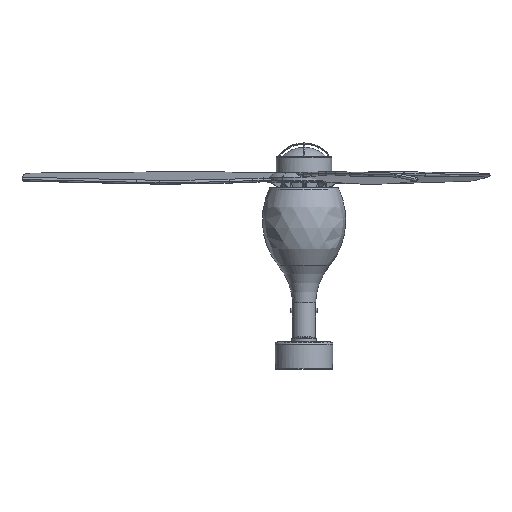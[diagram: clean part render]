
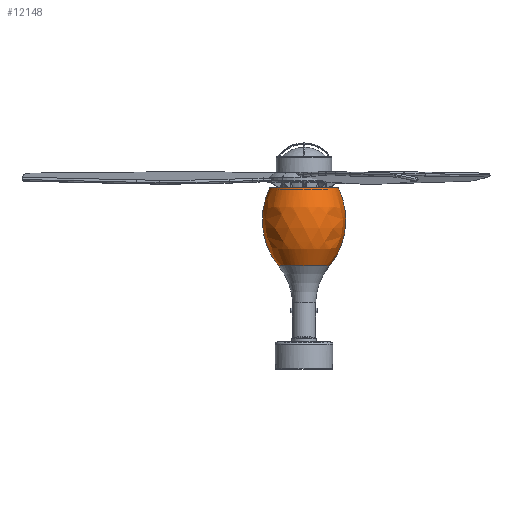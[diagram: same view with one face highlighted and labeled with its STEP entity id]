
A CAD part, left-side view. The second image highlights one B-rep face of the part: STEP entity #12148.
In plain terms, the highlighted free-form (B-spline) face has degree [2, 2] with [3, 5] control points.
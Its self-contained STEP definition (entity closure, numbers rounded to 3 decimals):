
#59=(
BOUNDED_SURFACE()
B_SPLINE_SURFACE(2,2,((#22378,#22379,#22380,#22381,#22382),(#22383,#22384,
#22385,#22386,#22387),(#22388,#22389,#22390,#22391,#22392)),
 .UNSPECIFIED.,.F.,.F.,.F.)
B_SPLINE_SURFACE_WITH_KNOTS((3,3),(3,2,3),(-0.68,0.46),
(-1.571,0.,1.571),.UNSPECIFIED.)
GEOMETRIC_REPRESENTATION_ITEM()
RATIONAL_B_SPLINE_SURFACE(((1.,0.707,1.,0.707,1.),
(0.842,0.595,0.842,0.595,
0.842),(1.,0.707,1.,0.707,1.)))
REPRESENTATION_ITEM('')
SURFACE()
);
#684=CIRCLE('',#13045,164.71);
#686=CIRCLE('',#13047,164.71);
#687=CIRCLE('',#13048,57.784);
#1444=FACE_OUTER_BOUND('',#2236,.T.);
#2236=EDGE_LOOP('',(#9316,#9317,#9318,#9319));
#3074=B_SPLINE_CURVE_WITH_KNOTS('',3,(#22393,#22394,#22395,#22396,#22397,
#22398,#22399,#22400,#22401,#22402,#22403),.UNSPECIFIED.,.F.,.F.,(4,1,1,
1,1,1,1,1,4),(0.,0.125,0.25,0.375,0.5,0.625,0.75,0.875,1.),
 .UNSPECIFIED.);
#5229=VERTEX_POINT('',#22360);
#5230=VERTEX_POINT('',#22361);
#5231=VERTEX_POINT('',#22373);
#5232=VERTEX_POINT('',#22375);
#6691=EDGE_CURVE('',#5231,#5229,#684,.T.);
#6693=EDGE_CURVE('',#5230,#5232,#686,.T.);
#6694=EDGE_CURVE('',#5230,#5229,#3074,.T.);
#6695=EDGE_CURVE('',#5231,#5232,#687,.T.);
#9316=ORIENTED_EDGE('',*,*,#6694,.F.);
#9317=ORIENTED_EDGE('',*,*,#6693,.T.);
#9318=ORIENTED_EDGE('',*,*,#6695,.F.);
#9319=ORIENTED_EDGE('',*,*,#6691,.T.);
#12148=ADVANCED_FACE('',(#1444),#59,.F.);
#13045=AXIS2_PLACEMENT_3D('',#22374,#14826,#14827);
#13047=AXIS2_PLACEMENT_3D('',#22377,#14830,#14831);
#13048=AXIS2_PLACEMENT_3D('',#22404,#14832,#14833);
#14826=DIRECTION('center_axis',(-1.,0.,0.));
#14827=DIRECTION('ref_axis',(0.,-1.,0.));
#14830=DIRECTION('center_axis',(-1.,0.,0.));
#14831=DIRECTION('ref_axis',(0.,1.,0.));
#14832=DIRECTION('center_axis',(0.,0.,-1.));
#14833=DIRECTION('ref_axis',(1.,0.,0.));
#22360=CARTESIAN_POINT('',(0.,-77.225,409.036));
#22361=CARTESIAN_POINT('',(0.,77.225,409.036));
#22373=CARTESIAN_POINT('',(0.,-57.784,232.343));
#22374=CARTESIAN_POINT('Origin',(0.,70.334,
335.855));
#22375=CARTESIAN_POINT('',(0.,57.784,232.343));
#22377=CARTESIAN_POINT('Origin',(0.,-70.334,
335.855));
#22378=CARTESIAN_POINT('Ctrl Pts',(0.,57.784,
232.343));
#22379=CARTESIAN_POINT('Ctrl Pts',(-57.784,57.784,232.343));
#22380=CARTESIAN_POINT('Ctrl Pts',(-57.784,0.,
232.343));
#22381=CARTESIAN_POINT('Ctrl Pts',(-57.784,-57.784,
232.343));
#22382=CARTESIAN_POINT('Ctrl Pts',(0.,-57.784,
232.343));
#22383=CARTESIAN_POINT('Ctrl Pts',(0.,124.135,
314.465));
#22384=CARTESIAN_POINT('Ctrl Pts',(-124.135,124.135,314.465));
#22385=CARTESIAN_POINT('Ctrl Pts',(-124.135,0.,
314.465));
#22386=CARTESIAN_POINT('Ctrl Pts',(-124.135,-124.135,
314.465));
#22387=CARTESIAN_POINT('Ctrl Pts',(0.,-124.135,
314.465));
#22388=CARTESIAN_POINT('Ctrl Pts',(0.,77.221,
409.046));
#22389=CARTESIAN_POINT('Ctrl Pts',(-77.221,77.221,409.046));
#22390=CARTESIAN_POINT('Ctrl Pts',(-77.221,0.,
409.046));
#22391=CARTESIAN_POINT('Ctrl Pts',(-77.221,-77.221,
409.046));
#22392=CARTESIAN_POINT('Ctrl Pts',(0.,-77.221,
409.046));
#22393=CARTESIAN_POINT('Ctrl Pts',(0.,77.225,409.036));
#22394=CARTESIAN_POINT('Ctrl Pts',(-10.149,77.327,409.036));
#22395=CARTESIAN_POINT('Ctrl Pts',(-30.303,73.157,409.036));
#22396=CARTESIAN_POINT('Ctrl Pts',(-56.033,56.041,409.036));
#22397=CARTESIAN_POINT('Ctrl Pts',(-73.203,30.319,409.036));
#22398=CARTESIAN_POINT('Ctrl Pts',(-79.237,0.,
409.036));
#22399=CARTESIAN_POINT('Ctrl Pts',(-73.203,-30.319,409.036));
#22400=CARTESIAN_POINT('Ctrl Pts',(-56.033,-56.041,409.036));
#22401=CARTESIAN_POINT('Ctrl Pts',(-30.303,-73.157,
409.036));
#22402=CARTESIAN_POINT('Ctrl Pts',(-10.149,-77.327,
409.036));
#22403=CARTESIAN_POINT('Ctrl Pts',(0.,-77.225,
409.036));
#22404=CARTESIAN_POINT('Origin',(0.,0.,232.343));
